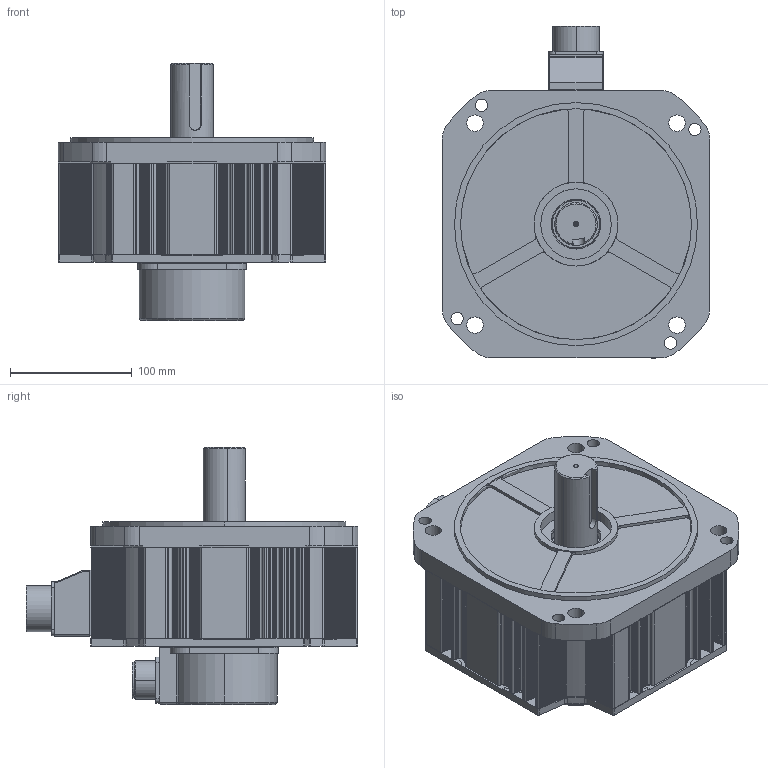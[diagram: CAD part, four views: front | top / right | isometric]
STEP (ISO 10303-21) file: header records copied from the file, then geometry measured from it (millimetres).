
FILE_DESCRIPTION (( 'STEP AP203' ), '1' );
FILE_NAME ('KANF-35G¡à9N2.STEP', '2026-09-12T00:52:30', ( '' ), ( '' ), 'SwSTEP 2.0', 'SolidWorks 2023', '' );
FILE_SCHEMA (( 'CONFIG_CONTROL_DESIGN' ));
Length unit declared in the file: millimetre
Products named in the file (11): Ø35-KEY10X50; □220 FLANGE; □220-78.0mm(3.5kW,NB); □220 BRACKET_BR; 1005053102 ENCODER COVER; 10050532 GASKET_미돌출형; MS3102A 20-29P; KANF-35G□9N2; MS3102A 24-11P_표준; 10050908 CONNECTOR BOX_MS22 or MS24; 10050907 RUBBER SEAL_MS22 or MS24
Assembly tree (10 placements, depth 2):
  KANF-35G□9N2
    □220 FLANGE
    □220 BRACKET_BR
    10050532 GASKET_미돌출형
    1005053102 ENCODER COVER
    MS3102A 20-29P
    10050907 RUBBER SEAL_MS22 or MS24
    10050908 CONNECTOR BOX_MS22 or MS24
    MS3102A 24-11P_표준
    Ø35-KEY10X50
    □220-78.0mm(3.5kW,NB)
Bounding box: 220 x 273.12 x 211.5 mm (x, y, z)
Volume: 1496685.2 mm3; surface area: 506024 mm2
Topology: 10 solids, 10 shells, 2020 faces, 5772 edges, 3812 vertices
Faces by surface type: plane 1184, cylinder 732, cone 54, bspline 35, torus 13, sphere 2
Entity records: 68895 total; most frequent: CARTESIAN_POINT 13760, ORIENTED_EDGE 11492, DIRECTION 11204, EDGE_CURVE 5746, LINE 3982, VECTOR 3982, VERTEX_POINT 3812, AXIS2_PLACEMENT_3D 3611
